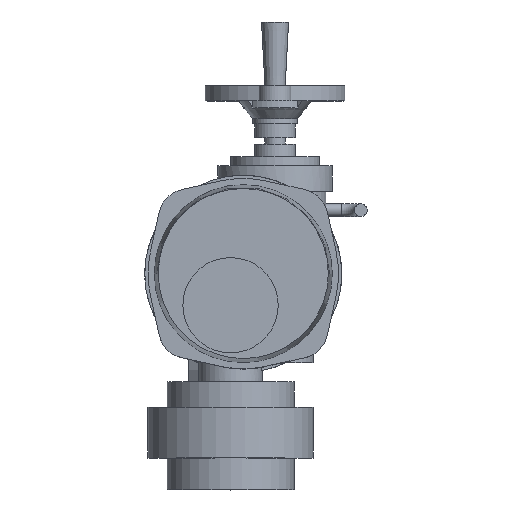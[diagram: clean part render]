
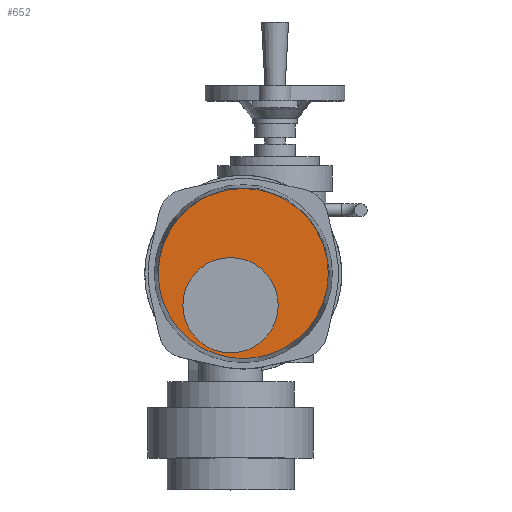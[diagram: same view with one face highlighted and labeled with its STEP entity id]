
A CAD part, top view. The second image highlights one B-rep face of the part: STEP entity #652.
In plain terms, the highlighted planar face has unit normal (0, 0, 1).
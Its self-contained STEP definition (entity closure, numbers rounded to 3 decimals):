
#652=ADVANCED_FACE('',(#7250,#7252),#7254,.T.);
#7250=FACE_BOUND('',#7251,.T.);
#7251=EDGE_LOOP('',(#12407));
#7252=FACE_BOUND('',#7253,.T.);
#7253=EDGE_LOOP('',(#12408));
#7254=PLANE('',#7255);
#7255=AXIS2_PLACEMENT_3D('',#7256,#7257,#7258);
#7256=CARTESIAN_POINT('',(15.,30.,445.));
#7257=DIRECTION('',(0.,0.,1.));
#7258=DIRECTION('',(-1.,0.,0.));
#12407=ORIENTED_EDGE('',*,*,#16415,.T.);
#12408=ORIENTED_EDGE('',*,*,#16418,.F.);
#16415=EDGE_CURVE('',#18621,#18621,#18622,.T.);
#16418=EDGE_CURVE('',#18627,#18627,#18628,.T.);
#18621=VERTEX_POINT('',#23096);
#18622=CIRCLE('',#23097,66.908);
#18627=VERTEX_POINT('',#23111);
#18628=CIRCLE('',#23112,37.5);
#23096=CARTESIAN_POINT('',(-51.908,30.,445.));
#23097=AXIS2_PLACEMENT_3D('',#23098,#23099,#23100);
#23098=CARTESIAN_POINT('',(15.,30.,445.));
#23099=DIRECTION('',(0.,0.,1.));
#23100=DIRECTION('',(-1.,0.,0.));
#23111=CARTESIAN_POINT('',(-32.5,5.,445.));
#23112=AXIS2_PLACEMENT_3D('',#23113,#23114,#23115);
#23113=CARTESIAN_POINT('',(5.,5.,445.));
#23114=DIRECTION('',(0.,0.,1.));
#23115=DIRECTION('',(-1.,0.,0.));
